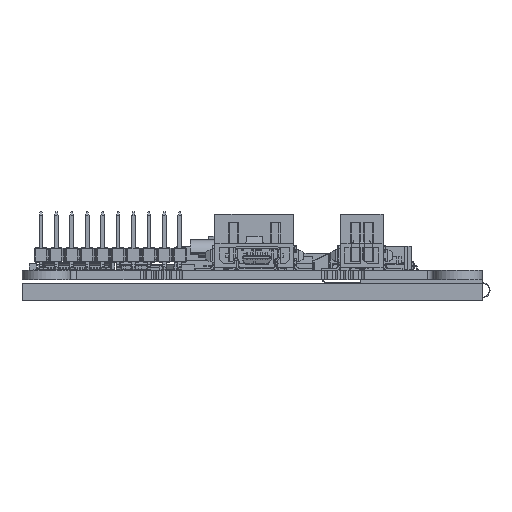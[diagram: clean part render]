
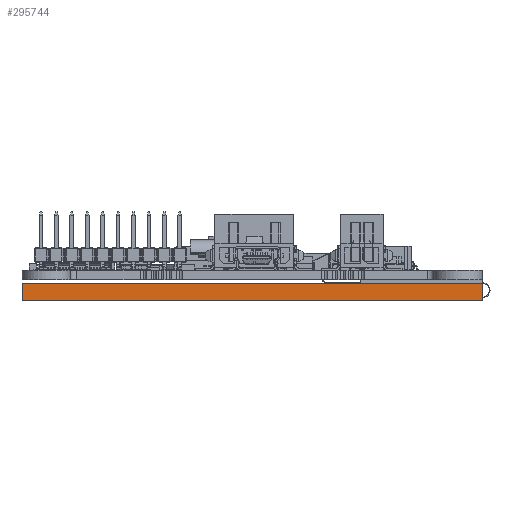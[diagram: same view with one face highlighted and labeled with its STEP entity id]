
A CAD part, left-side view. The second image highlights one B-rep face of the part: STEP entity #295744.
In plain terms, the highlighted planar face has unit normal (-1, 0, 0) as drawn and (1, 0, 0) by its records, which use the part's own axes.
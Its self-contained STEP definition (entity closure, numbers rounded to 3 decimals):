
#744 = VERTEX_POINT ( 'NONE', #77660 ) ;
#19367 = EDGE_CURVE ( 'NONE', #321122, #315650, #88789, .T. ) ;
#46361 = ORIENTED_EDGE ( 'NONE', *, *, #317704, .F. ) ;
#52209 = DIRECTION ( 'NONE',  ( 0., 1., 0. ) ) ;
#59826 = EDGE_CURVE ( 'NONE', #321122, #448697, #510442, .T. ) ;
#77660 = CARTESIAN_POINT ( 'NONE',  ( 60.35, 37.9, 1.4 ) ) ;
#88789 = LINE ( 'NONE', #495842, #94919 ) ;
#94919 = VECTOR ( 'NONE', #143044, 1000. ) ;
#116968 = DIRECTION ( 'NONE',  ( 1., 0., 0. ) ) ;
#118307 = CARTESIAN_POINT ( 'NONE',  ( 60.35, 37.9, -1.4 ) ) ;
#143044 = DIRECTION ( 'NONE',  ( 0., 0., 1. ) ) ;
#154317 = EDGE_CURVE ( 'NONE', #448697, #744, #329753, .T. ) ;
#165642 = CARTESIAN_POINT ( 'NONE',  ( 60.35, -37.9, 1.4 ) ) ;
#166086 = PLANE ( 'NONE',  #264576 ) ;
#171644 = LINE ( 'NONE', #366097, #510676 ) ;
#204018 = ORIENTED_EDGE ( 'NONE', *, *, #19367, .F. ) ;
#212563 = ORIENTED_EDGE ( 'NONE', *, *, #154317, .T. ) ;
#228002 = DIRECTION ( 'NONE',  ( 0., 1., 0. ) ) ;
#238863 = CARTESIAN_POINT ( 'NONE',  ( 60.35, 37.9, -1.4 ) ) ;
#254875 = EDGE_LOOP ( 'NONE', ( #212563, #46361, #204018, #278414 ) ) ;
#264576 = AXIS2_PLACEMENT_3D ( 'NONE', #238863, #116968, #355504 ) ;
#277734 = FACE_OUTER_BOUND ( 'NONE', #254875, .T. ) ;
#278414 = ORIENTED_EDGE ( 'NONE', *, *, #59826, .T. ) ;
#288318 = VECTOR ( 'NONE', #477764, 1000. ) ;
#295744 = ADVANCED_FACE ( 'NONE', ( #277734 ), #166086, .T. ) ;
#315650 = VERTEX_POINT ( 'NONE', #165642 ) ;
#317704 = EDGE_CURVE ( 'NONE', #315650, #744, #171644, .T. ) ;
#321122 = VERTEX_POINT ( 'NONE', #508063 ) ;
#329753 = LINE ( 'NONE', #363489, #288318 ) ;
#340761 = VECTOR ( 'NONE', #228002, 1000. ) ;
#355504 = DIRECTION ( 'NONE',  ( 0., 1., 0. ) ) ;
#363489 = CARTESIAN_POINT ( 'NONE',  ( 60.35, 37.9, -1.4 ) ) ;
#366097 = CARTESIAN_POINT ( 'NONE',  ( 60.35, 37.9, 1.4 ) ) ;
#448697 = VERTEX_POINT ( 'NONE', #118307 ) ;
#477764 = DIRECTION ( 'NONE',  ( 0., 0., 1. ) ) ;
#495842 = CARTESIAN_POINT ( 'NONE',  ( 60.35, -37.9, -1.4 ) ) ;
#507873 = CARTESIAN_POINT ( 'NONE',  ( 60.35, 37.9, -1.4 ) ) ;
#508063 = CARTESIAN_POINT ( 'NONE',  ( 60.35, -37.9, -1.4 ) ) ;
#510442 = LINE ( 'NONE', #507873, #340761 ) ;
#510676 = VECTOR ( 'NONE', #52209, 1000. ) ;
